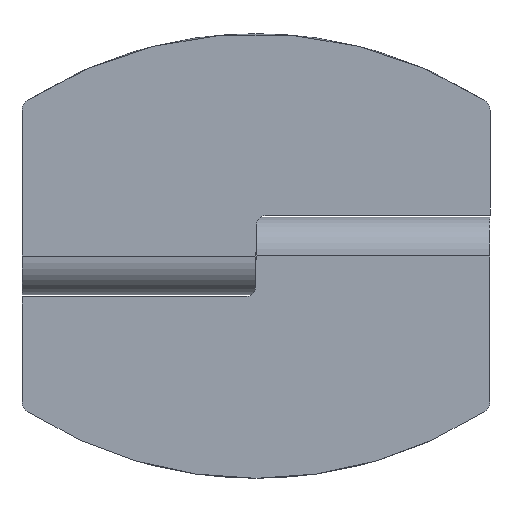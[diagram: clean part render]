
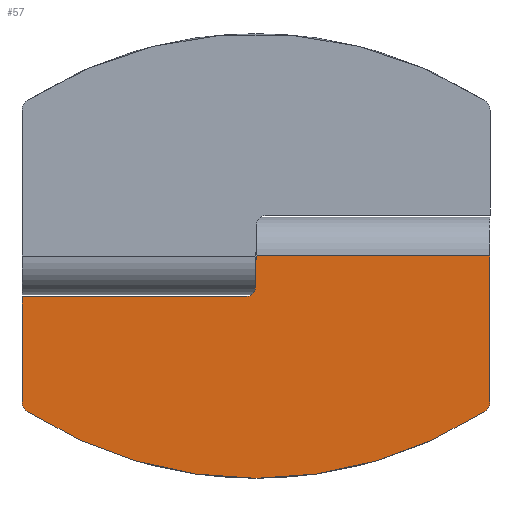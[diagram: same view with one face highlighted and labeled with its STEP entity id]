
A CAD part, left-side view. The second image highlights one B-rep face of the part: STEP entity #57.
In plain terms, the highlighted planar face has unit normal (-1, 0, 0) as drawn and (0, 0, -1) by its records, which use the part's own axes.
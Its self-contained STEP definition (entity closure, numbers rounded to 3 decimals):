
#1 = ORIENTED_EDGE ( 'NONE', *, *, #158, .T. ) ;
#39 = VERTEX_POINT ( 'NONE', #581 ) ;
#46 = EDGE_LOOP ( 'NONE', ( #1698, #127, #77, #246, #157, #263, #151, #184, #72, #1 ) ) ;
#52 = EDGE_CURVE ( 'NONE', #39, #116, #777, .T. ) ;
#57 = ADVANCED_FACE ( 'NONE', ( #846 ), #847, .F. ) ;
#60 = EDGE_CURVE ( 'NONE', #211, #391, #885, .T. ) ;
#72 = ORIENTED_EDGE ( 'NONE', *, *, #52, .F. ) ;
#77 = ORIENTED_EDGE ( 'NONE', *, *, #60, .T. ) ;
#103 = VERTEX_POINT ( 'NONE', #1194 ) ;
#116 = VERTEX_POINT ( 'NONE', #1270 ) ;
#127 = ORIENTED_EDGE ( 'NONE', *, *, #1645, .T. ) ;
#139 = EDGE_CURVE ( 'NONE', #116, #232, #691, .T. ) ;
#151 = ORIENTED_EDGE ( 'NONE', *, *, #257, .T. ) ;
#157 = ORIENTED_EDGE ( 'NONE', *, *, #1662, .F. ) ;
#158 = EDGE_CURVE ( 'NONE', #39, #1663, #803, .T. ) ;
#184 = ORIENTED_EDGE ( 'NONE', *, *, #139, .F. ) ;
#202 = VERTEX_POINT ( 'NONE', #396 ) ;
#207 = EDGE_CURVE ( 'NONE', #391, #262, #414, .T. ) ;
#211 = VERTEX_POINT ( 'NONE', #432 ) ;
#223 = EDGE_CURVE ( 'NONE', #202, #103, #450, .T. ) ;
#231 = VERTEX_POINT ( 'NONE', #493 ) ;
#232 = VERTEX_POINT ( 'NONE', #494 ) ;
#246 = ORIENTED_EDGE ( 'NONE', *, *, #207, .T. ) ;
#257 = EDGE_CURVE ( 'NONE', #202, #232, #598, .T. ) ;
#262 = VERTEX_POINT ( 'NONE', #690 ) ;
#263 = ORIENTED_EDGE ( 'NONE', *, *, #223, .F. ) ;
#391 = VERTEX_POINT ( 'NONE', #964 ) ;
#396 = CARTESIAN_POINT ( 'NONE',  ( 2.5, 0., -3.3 ) ) ;
#409 = CIRCLE ( 'NONE', #410, 36.333 ) ;
#410 = AXIS2_PLACEMENT_3D ( 'NONE', #411, #412, #413 ) ;
#411 = CARTESIAN_POINT ( 'NONE',  ( -17.333, 0., -3.3 ) ) ;
#412 = DIRECTION ( 'NONE',  ( 0., 0., -1. ) ) ;
#413 = DIRECTION ( 'NONE',  ( 1., 0., 0. ) ) ;
#414 = LINE ( 'NONE', #415, #416 ) ;
#415 = CARTESIAN_POINT ( 'NONE',  ( 0., -20., -3.3 ) ) ;
#416 = VECTOR ( 'NONE', #417, 1000. ) ;
#417 = DIRECTION ( 'NONE',  ( -1., 0., 0. ) ) ;
#432 = CARTESIAN_POINT ( 'NONE',  ( 13.3, -19.538, -3.3 ) ) ;
#450 = LINE ( 'NONE', #451, #452 ) ;
#451 = CARTESIAN_POINT ( 'NONE',  ( 0., 0., -3.3 ) ) ;
#452 = VECTOR ( 'NONE', #453, 1000. ) ;
#453 = DIRECTION ( 'NONE',  ( -1., 0., 0. ) ) ;
#493 = CARTESIAN_POINT ( 'NONE',  ( 19., 0., -3.3 ) ) ;
#494 = CARTESIAN_POINT ( 'NONE',  ( 3.5, 1., -3.3 ) ) ;
#515 = LINE ( 'NONE', #516, #517 ) ;
#516 = CARTESIAN_POINT ( 'NONE',  ( 0., 20., -3.3 ) ) ;
#517 = VECTOR ( 'NONE', #518, 1000. ) ;
#518 = DIRECTION ( 'NONE',  ( 0., -1., 0. ) ) ;
#527 = CARTESIAN_POINT ( 'NONE',  ( 13.3, 19.538, -3.3 ) ) ;
#581 = CARTESIAN_POINT ( 'NONE',  ( 12.457, 20., -3.3 ) ) ;
#598 = CIRCLE ( 'NONE', #599, 1. ) ;
#599 = AXIS2_PLACEMENT_3D ( 'NONE', #600, #601, #606 ) ;
#600 = CARTESIAN_POINT ( 'NONE',  ( 2.5, 1., -3.3 ) ) ;
#601 = DIRECTION ( 'NONE',  ( 0., 0., 1. ) ) ;
#606 = DIRECTION ( 'NONE',  ( 1., 0., 0. ) ) ;
#690 = CARTESIAN_POINT ( 'NONE',  ( 0., -20., -3.3 ) ) ;
#691 = LINE ( 'NONE', #692, #693 ) ;
#692 = CARTESIAN_POINT ( 'NONE',  ( 3.5, 20.001, -3.3 ) ) ;
#693 = VECTOR ( 'NONE', #694, 1000. ) ;
#694 = DIRECTION ( 'NONE',  ( 0., -1., 0. ) ) ;
#695 = CIRCLE ( 'NONE', #696, 36.333 ) ;
#696 = AXIS2_PLACEMENT_3D ( 'NONE', #697, #698, #699 ) ;
#697 = CARTESIAN_POINT ( 'NONE',  ( -17.333, 0., -3.3 ) ) ;
#698 = DIRECTION ( 'NONE',  ( 0., 0., -1. ) ) ;
#699 = DIRECTION ( 'NONE',  ( 1., 0., 0. ) ) ;
#777 = LINE ( 'NONE', #778, #779 ) ;
#778 = CARTESIAN_POINT ( 'NONE',  ( 0., 20., -3.3 ) ) ;
#779 = VECTOR ( 'NONE', #780, 1000. ) ;
#780 = DIRECTION ( 'NONE',  ( -1., 0., 0. ) ) ;
#803 = CIRCLE ( 'NONE', #804, 1. ) ;
#804 = AXIS2_PLACEMENT_3D ( 'NONE', #805, #806, #807 ) ;
#805 = CARTESIAN_POINT ( 'NONE',  ( 12.457, 19., -3.3 ) ) ;
#806 = DIRECTION ( 'NONE',  ( 0., 0., -1. ) ) ;
#807 = DIRECTION ( 'NONE',  ( 1., 0., 0. ) ) ;
#846 = FACE_OUTER_BOUND ( 'NONE', #46, .T. ) ;
#847 = PLANE ( 'NONE',  #848 ) ;
#848 = AXIS2_PLACEMENT_3D ( 'NONE', #849, #850, #851 ) ;
#849 = CARTESIAN_POINT ( 'NONE',  ( 0., 20., -3.3 ) ) ;
#850 = DIRECTION ( 'NONE',  ( 0., 0., 1. ) ) ;
#851 = DIRECTION ( 'NONE',  ( 1., 0., 0. ) ) ;
#885 = CIRCLE ( 'NONE', #886, 1. ) ;
#886 = AXIS2_PLACEMENT_3D ( 'NONE', #887, #888, #889 ) ;
#887 = CARTESIAN_POINT ( 'NONE',  ( 12.457, -19., -3.3 ) ) ;
#888 = DIRECTION ( 'NONE',  ( 0., 0., -1. ) ) ;
#889 = DIRECTION ( 'NONE',  ( 1., 0., 0. ) ) ;
#964 = CARTESIAN_POINT ( 'NONE',  ( 12.457, -20., -3.3 ) ) ;
#1194 = CARTESIAN_POINT ( 'NONE',  ( 0., 0., -3.3 ) ) ;
#1270 = CARTESIAN_POINT ( 'NONE',  ( 3.5, 20., -3.3 ) ) ;
#1645 = EDGE_CURVE ( 'NONE', #231, #211, #409, .T. ) ;
#1662 = EDGE_CURVE ( 'NONE', #103, #262, #515, .T. ) ;
#1663 = VERTEX_POINT ( 'NONE', #527 ) ;
#1674 = EDGE_CURVE ( 'NONE', #1663, #231, #695, .T. ) ;
#1698 = ORIENTED_EDGE ( 'NONE', *, *, #1674, .T. ) ;
